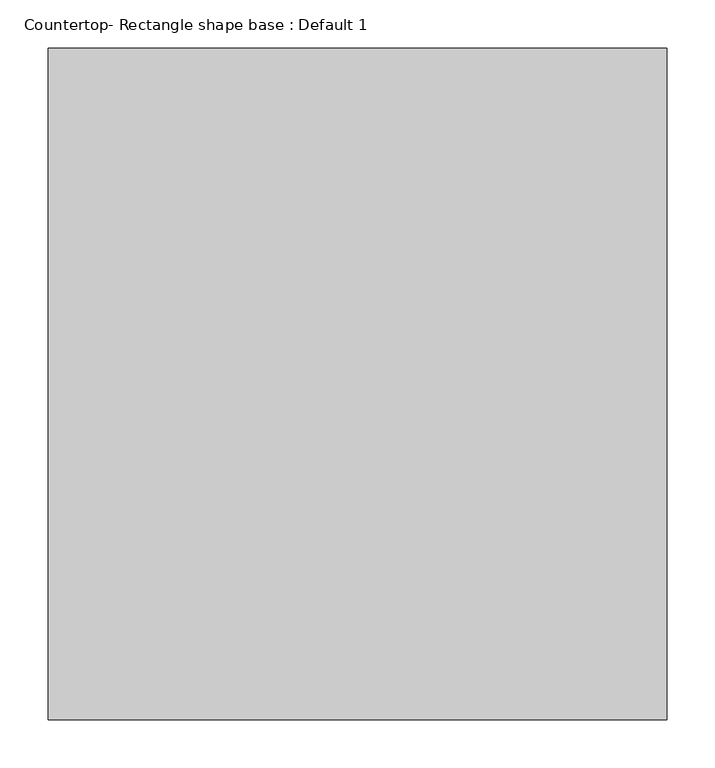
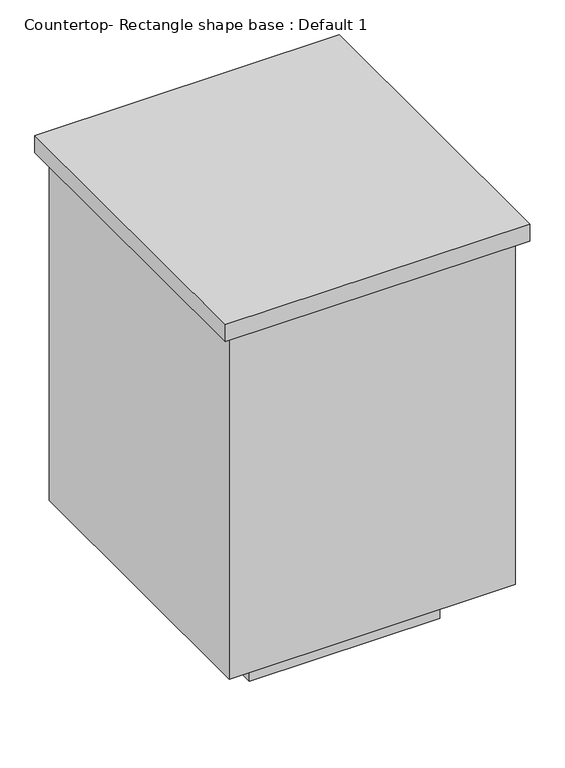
"""IFC4 building model written with IfcOpenShell, lengths in millimetres: proxy geometry, Countertop- Rectangle shape base : Default 1."""

from ifc_helpers import new_model, si_unit, frame, origin, origin_with_axes, place, context, project, spatial, polyline, outline, extrude, source, transform, mapped, element, save


def countertop_rectangle_shape_base_default_1_bba48ae2(model_context):
    return source(origin(), model_context, "Body", "SweptSolid", [
        extrude(outline(polyline([(439.7383, 31.4174785), (439.7383, 730.5825215), (1084.2617, 730.5825215), (1084.2617, 31.4174785), (439.7383, 31.4174785)])), frame((0.0, 0.0, 876.3), z_axis=(0.0, 0.0, 1.0), x_axis=(1.0, 0.0, 0.0)), (0.0, 0.0, 1.0), 38.1),
        extrude(outline(polyline([(1065.2117, 711.5325215), (1065.2117, 50.4674785), (458.7883, 50.4674785), (458.7883, 711.5325215), (1065.2117, 711.5325215)])), frame((0.0, 0.0, 101.6), z_axis=(0.0, 0.0, 1.0), x_axis=(1.0, 0.0, 0.0)), (0.0, 0.0, 1.0), 774.7),
        extrude(outline(polyline([(963.6117, 609.9325215), (963.6117, 152.0674785), (560.3883, 152.0674785), (560.3883, 609.9325215), (963.6117, 609.9325215)])), origin_with_axes(), (0.0, 0.0, 1.0), 101.6),
    ])


if __name__ == "__main__":
    model = new_model("IFC4")
    model_context = context("Model", 3, world=origin())
    ifc_project = project(units=[si_unit("LENGTHUNIT", "METRE", prefix="MILLI")], contexts=[model_context])
    site = spatial("IfcSite", under=ifc_project)
    building = spatial("IfcBuilding", under=site)
    placement = place(None, origin())
    countertop_rectangle_shape_base_default_1_shape = countertop_rectangle_shape_base_default_1_bba48ae2(model_context)
    element("IfcBuildingElementProxy", 1, Name="Countertop- Rectangle shape base : Default 1", ObjectType="Countertop- Rectangle shape base : Default 1", at=placement, inside=building, context=model_context, shape_type="MappedRepresentation", body=[
        mapped(countertop_rectangle_shape_base_default_1_shape, transform((0.0, 0.0, 0.0), x_axis=(1.0, 0.0, 0.0), y_axis=(0.0, 1.0, 0.0), z_axis=(0.0, 0.0, 1.0))),
    ])
    save(model, "model.ifc")
